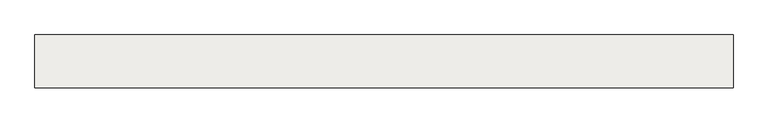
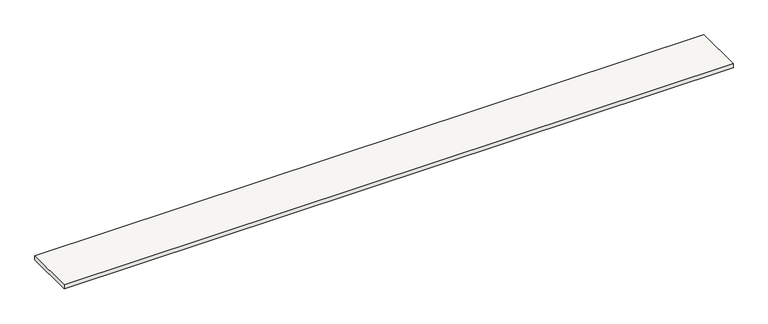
"""IFC4 building model written with IfcOpenShell, lengths in millimetres: slab geometry, Sol-02 - Tablette bois 2cm."""

import ifcopenshell
import ifcopenshell.guid

model = None  # the IFC model being written
_history = None  # IfcOwnerHistory: only IFC2X3 demands one
_inside = {}  # id of a spatial element -> (the spatial element, [elements in it])
_under = {}  # id of a project, library or spatial element -> (it, [spatial elements below it])
_declared = {}  # id of a project -> (the project, [libraries it declares])
_typed = {}  # id of a type object -> (the type object, [elements of that type])
_made_of = {}  # id of a material, layer set ... -> (it, [elements and type objects made of it])


def new_model(schema):
    """Start an empty IFC model of exactly this schema.

    Asked for "IFC4X3", IfcOpenShell would pick the latest addendum, in which some entities
    have other attributes; the version numbers below select the first issue.
    IFC2X3 requires an IfcOwnerHistory on every rooted entity: one is made here for all.
    """
    global model, _history
    if schema == "IFC4X3":
        model = ifcopenshell.file(schema_version=(4, 3, 0, 0))
    else:
        model = ifcopenshell.file(schema=schema)
    _inside.clear()
    _under.clear()
    _declared.clear()
    _typed.clear()
    _made_of.clear()
    _history = None
    if model.schema == "IFC2X3":
        org = make("IfcOrganization", Name="unknown")
        user = make(
            "IfcPersonAndOrganization",
            ThePerson=make("IfcPerson", FamilyName="unknown"),
            TheOrganization=org,
        )
        app = make(
            "IfcApplication",
            ApplicationDeveloper=org,
            Version="unknown",
            ApplicationFullName="unknown",
            ApplicationIdentifier="unknown",
        )
        _history = make(
            "IfcOwnerHistory",
            OwningUser=user,
            OwningApplication=app,
            ChangeAction="ADDED",
            CreationDate=0,
        )
    return model


def make(cls, **values):
    """One entity of the class cls with the attributes given. An attribute that is None is left unset."""
    return model.create_entity(
        cls, **{name: value for name, value in values.items() if value is not None}
    )


def rooted(cls, **values):
    """An entity with a GlobalId (a new one), such as an element, a storey or a relation."""
    return make(cls, GlobalId=ifcopenshell.guid.new(), OwnerHistory=_history, **values)


def si_unit(unit_type, name, prefix=None):
    """IfcSIUnit, for example si_unit("LENGTHUNIT", "METRE", prefix="MILLI")."""
    return make("IfcSIUnit", UnitType=unit_type, Prefix=prefix, Name=name)


def assignment(units):
    """IfcUnitAssignment: the units of a project."""
    return None if units is None else make("IfcUnitAssignment", Units=units)


def point(xyz):
    """IfcCartesianPoint."""
    return None if xyz is None else make("IfcCartesianPoint", Coordinates=xyz)


def direction(xyz):
    """IfcDirection."""
    return None if xyz is None else make("IfcDirection", DirectionRatios=xyz)


def frame(location, z_axis=None, x_axis=None):
    """IfcAxis2Placement3D, a coordinate frame: its origin and axes. An axis left out is left unset."""
    return make(
        "IfcAxis2Placement3D",
        Location=point(location),
        Axis=direction(z_axis),
        RefDirection=direction(x_axis),
    )


def origin():
    """The frame at (0, 0, 0) with its axes left unset."""
    return frame((0.0, 0.0, 0.0))


def origin_with_axes():
    """The frame at (0, 0, 0) with the z axis (0, 0, 1) and the x axis (1, 0, 0) written out."""
    return frame((0.0, 0.0, 0.0), z_axis=(0.0, 0.0, 1.0), x_axis=(1.0, 0.0, 0.0))


def place(relative_to, where):
    """IfcLocalPlacement: puts the frame where relative to a parent placement (None: the world)."""
    return make(
        "IfcLocalPlacement", PlacementRelTo=relative_to, RelativePlacement=where
    )


def context(
    kind, dimensions, precision=None, world=None, true_north=None, identifier=None
):
    """IfcGeometricRepresentationContext, for example the 3D "Model" context."""
    return make(
        "IfcGeometricRepresentationContext",
        ContextIdentifier=identifier,
        ContextType=kind,
        CoordinateSpaceDimension=dimensions,
        Precision=precision,
        WorldCoordinateSystem=world,
        TrueNorth=true_north,
    )


def project(units=None, contexts=None):
    """IfcProject with its units and contexts."""
    return rooted(
        "IfcProject",
        Name="project",
        RepresentationContexts=contexts,
        UnitsInContext=assignment(units),
    )


def spatial(cls, under=None, at=None, **own):
    """A site, building, storey or space (cls), placed at a placement, below another one or the project."""
    s = rooted(cls, ObjectPlacement=at, **own)
    if under is not None:
        _under.setdefault(under.id(), (under, []))[1].append(s)
    return s


def polyline(points):
    """IfcPolyline through the points."""
    return make("IfcPolyline", Points=[point(p) for p in points])


def outline(outer, holes=None, kind="AREA"):
    """IfcArbitraryClosedProfileDef: a profile drawn as a closed curve; with holes, ...WithVoids."""
    if holes is None:
        return make("IfcArbitraryClosedProfileDef", ProfileType=kind, OuterCurve=outer)
    return make(
        "IfcArbitraryProfileDefWithVoids",
        ProfileType=kind,
        OuterCurve=outer,
        InnerCurves=holes,
    )


def extrude(swept, where, along, depth):
    """IfcExtrudedAreaSolid: the profile swept, set in the frame where, extruded along a direction by depth."""
    return make(
        "IfcExtrudedAreaSolid",
        SweptArea=swept,
        Position=where,
        ExtrudedDirection=direction(along),
        Depth=depth,
    )


def shape(context_of_items, identifier, shape_type, items):
    """IfcShapeRepresentation: the items that make up one representation, for example the "Body"."""
    return make(
        "IfcShapeRepresentation",
        ContextOfItems=context_of_items,
        RepresentationIdentifier=identifier,
        RepresentationType=shape_type,
        Items=items,
    )


def source(mapping_origin, context_of_items, identifier, shape_type, items):
    """IfcRepresentationMap: a shape defined once, which mapped items show again and again."""
    return make(
        "IfcRepresentationMap",
        MappingOrigin=mapping_origin,
        MappedRepresentation=shape(context_of_items, identifier, shape_type, items),
    )


def transform(
    local_origin,
    x_axis=None,
    y_axis=None,
    z_axis=None,
    scale=None,
    scale2=None,
    scale3=None,
    uniform=True,
):
    """IfcCartesianTransformationOperator3D, or its non-uniform kind. x_axis, y_axis, z_axis: its Axis1, 2, 3."""
    if uniform:
        return make(
            "IfcCartesianTransformationOperator3D",
            Axis1=direction(x_axis),
            Axis2=direction(y_axis),
            LocalOrigin=point(local_origin),
            Scale=scale,
            Axis3=direction(z_axis),
        )
    return make(
        "IfcCartesianTransformationOperator3DnonUniform",
        Axis1=direction(x_axis),
        Axis2=direction(y_axis),
        LocalOrigin=point(local_origin),
        Scale=scale,
        Axis3=direction(z_axis),
        Scale2=scale2,
        Scale3=scale3,
    )


def mapped(mapping_source, mapping_target):
    """IfcMappedItem: shows the shape of a source again, moved by a transform."""
    return make(
        "IfcMappedItem", MappingSource=mapping_source, MappingTarget=mapping_target
    )


def made_of(thing, what):
    """Note that an element or type object is made of a material, layer set ...; save() writes the relation."""
    if what is not None:
        _made_of.setdefault(what.id(), (what, []))[1].append(thing)
    return thing


def element(
    cls,
    number,
    at=None,
    inside=None,
    cuts=None,
    type_object=None,
    material=None,
    context=None,
    identifier="Body",
    shape_type=None,
    held_by="IfcProductDefinitionShape",
    body=None,
    shapes=None,
    **own,
):
    """One element of the class cls, such as IfcWall. Its Tag is "e" and its number.

    at: its placement. inside: the storey or other place that contains it. cuts: it is an
    opening in that element (IfcRelVoidsElement). A single representation is given by context,
    identifier, shape_type and body (its items); several are given by shapes. held_by: the class
    of the entity that holds the representations. save() writes the other relations.
    """
    e = rooted(cls, Tag="e%d" % number, ObjectPlacement=at, **own)
    if body is not None:
        shapes = [shape(context, identifier, shape_type, body)]
    if shapes is not None:
        e.Representation = make(held_by, Representations=shapes)
    if inside is not None:
        _inside.setdefault(inside.id(), (inside, []))[1].append(e)
    if cuts is not None:
        rooted(
            "IfcRelVoidsElement", RelatingBuildingElement=cuts, RelatedOpeningElement=e
        )
    if type_object is not None:
        _typed.setdefault(type_object.id(), (type_object, []))[1].append(e)
    return made_of(e, material)


def aggregate(whole, parts):
    """IfcRelAggregates: a whole, such as a stair, and the parts it consists of."""
    return rooted("IfcRelAggregates", RelatingObject=whole, RelatedObjects=parts)


def save(model, path):
    """Write the relations noted so far, then the file.

    IfcRelAggregates (storeys below a building ...), IfcRelContainedInSpatialStructure (elements
    in a storey), IfcRelDefinesByType, IfcRelAssociatesMaterial and IfcRelDeclares: one each for
    every whole, place, type object, material and project.
    """
    for whole, parts in _under.values():
        aggregate(whole, parts)
    for where, things in _inside.values():
        rooted(
            "IfcRelContainedInSpatialStructure",
            RelatedElements=things,
            RelatingStructure=where,
        )
    for kind, things in _typed.values():
        rooted("IfcRelDefinesByType", RelatedObjects=things, RelatingType=kind)
    for what, things in _made_of.values():
        rooted("IfcRelAssociatesMaterial", RelatedObjects=things, RelatingMaterial=what)
    for by, libraries in _declared.values():
        rooted("IfcRelDeclares", RelatingContext=by, RelatedDefinitions=libraries)
    model.write(path)


def slab_e1a3d67c(model_context):
    return source(origin(), model_context, "Body", "SweptSolid", [
        extrude(outline(polyline([(72188.9999483, 349.9999995), (75488.9999483, 349.9999995), (75488.9999483, 99.9999995), (72188.9999483, 99.9999995), (72188.9999483, 349.9999995)])), origin_with_axes(), (0.0, 0.0, 1.0), 20.0),
    ])


if __name__ == "__main__":
    model = new_model("IFC4")
    model_context = context("Model", 3, world=origin())
    ifc_project = project(units=[si_unit("LENGTHUNIT", "METRE", prefix="MILLI")], contexts=[model_context])
    site = spatial("IfcSite", under=ifc_project)
    building = spatial("IfcBuilding", under=site)
    placement = place(None, origin())
    slab_shape = slab_e1a3d67c(model_context)
    element("IfcSlab", 1, ObjectType="Sol-02 - Tablette bois 2cm", at=placement, inside=building, context=model_context, shape_type="MappedRepresentation", body=[
        mapped(slab_shape, transform((0.0, 0.0, 0.0), x_axis=(1.0, 0.0, 0.0), y_axis=(0.0, 1.0, 0.0), z_axis=(0.0, 0.0, 1.0))),
    ])
    save(model, "model.ifc")
